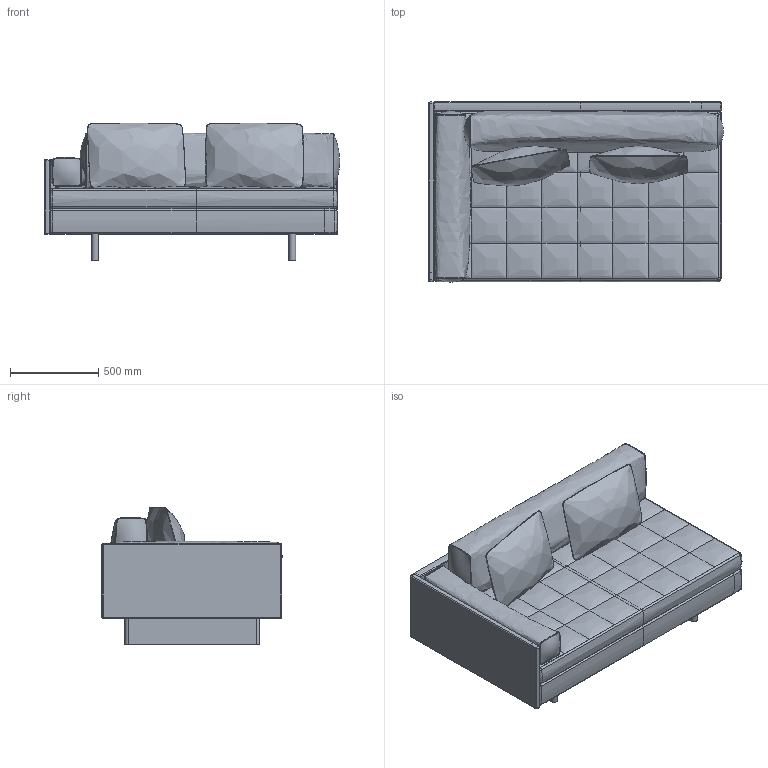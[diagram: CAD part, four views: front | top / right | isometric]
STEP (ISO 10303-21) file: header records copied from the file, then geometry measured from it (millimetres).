
FILE_DESCRIPTION(/* description */ (''),/* implementation_level */ '2;1');
FILE_NAME(/* name */ 'Asymmetric_Grand_CB-664GR_3D',/* time_stamp */ '2024-06-27T12:36:46+02:00',/* author */ (''),/* organization */ (''),/* preprocessor_version */ 'ST-DEVELOPER v16.5',/* originating_system */ 'Rhino 7.34',/* authorisation */ '');
FILE_SCHEMA (('AUTOMOTIVE_DESIGN'));
Length unit declared in the file: centimetre
Products named in the file (2): Document; Asymmetric_Grand_CB-664GR
Assembly tree (1 placements, depth 2):
  Document
    Asymmetric_Grand_CB-664GR
Bounding box: 1669.12 x 1018.5 x 778.83 mm (x, y, z)
Volume: 500780535.7 mm3; surface area: 15328850.1 mm2
Topology: 13 solids, 59 shells, 252 faces, 602 edges, 412 vertices
Faces by surface type: bspline 202, cylinder 28, plane 22
Entity records: 52641 total; most frequent: CARTESIAN_POINT 49151, ORIENTED_EDGE 1035, EDGE_CURVE 602, VERTEX_POINT 412, B_SPLINE_CURVE_WITH_KNOTS 257, ADVANCED_FACE 252, FACE_OUTER_BOUND 252, EDGE_LOOP 252
